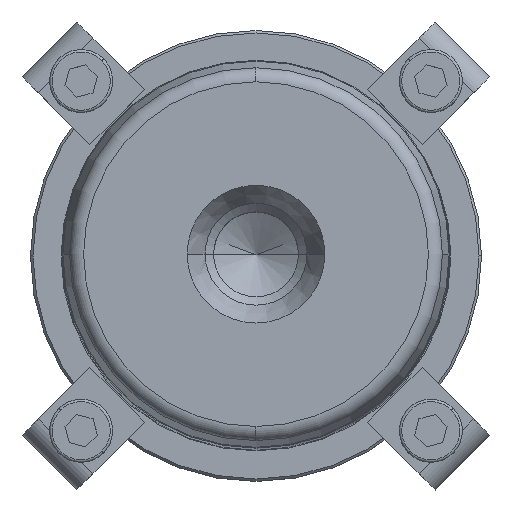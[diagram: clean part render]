
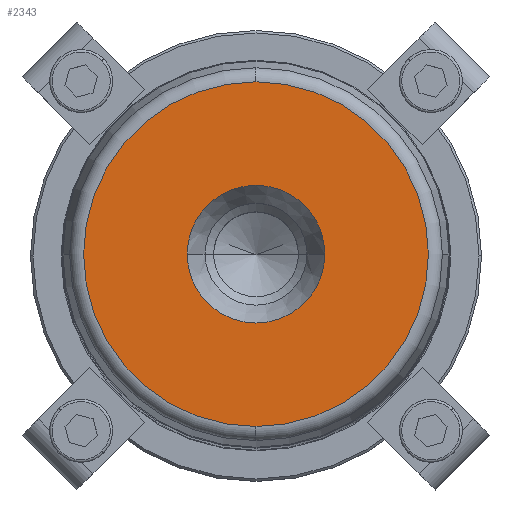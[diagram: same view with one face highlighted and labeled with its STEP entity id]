
A CAD part, top view. The second image highlights one B-rep face of the part: STEP entity #2343.
In plain terms, the highlighted planar face has unit normal (0, 0, 1).
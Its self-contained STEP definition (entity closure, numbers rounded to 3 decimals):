
#431=CARTESIAN_POINT('',(14.2,0.,220.0));
#432=VERTEX_POINT('',#431);
#439=CARTESIAN_POINT('',(-14.2,0.,220.));
#440=VERTEX_POINT('',#439);
#441=CARTESIAN_POINT('',(0.0,0.,220.));
#442=DIRECTION('',(0.0,0.0,1.0));
#443=DIRECTION('',(1.0,0.0,0.0));
#444=AXIS2_PLACEMENT_3D('',#441,#442,#443);
#445=CIRCLE('',#444,14.2);
#446=EDGE_CURVE('',#432,#440,#445,.T.);
#463=CARTESIAN_POINT('',(0.0,-35.554,220.));
#464=VERTEX_POINT('',#463);
#474=CARTESIAN_POINT('',(0.,35.554,220.));
#475=VERTEX_POINT('',#474);
#476=CARTESIAN_POINT('',(0.0,0.,220.));
#477=DIRECTION('',(0.0,0.0,1.0));
#478=DIRECTION('',(1.0,0.0,0.0));
#479=AXIS2_PLACEMENT_3D('',#476,#477,#478);
#480=CIRCLE('',#479,35.554);
#481=EDGE_CURVE('',#475,#464,#480,.T.);
#2304=CARTESIAN_POINT('',(35.554,0.,220.));
#2305=VERTEX_POINT('',#2304);
#2306=CARTESIAN_POINT('',(0.0,0.,220.));
#2307=DIRECTION('',(0.0,0.0,1.0));
#2308=DIRECTION('',(1.0,0.0,0.0));
#2309=AXIS2_PLACEMENT_3D('',#2306,#2307,#2308);
#2310=CIRCLE('',#2309,35.554);
#2311=EDGE_CURVE('',#2305,#475,#2310,.T.);
#2313=CARTESIAN_POINT('',(0.0,0.,220.));
#2314=DIRECTION('',(0.0,0.0,1.0));
#2315=DIRECTION('',(1.0,0.0,0.0));
#2316=AXIS2_PLACEMENT_3D('',#2313,#2314,#2315);
#2317=CIRCLE('',#2316,35.554);
#2318=EDGE_CURVE('',#464,#2305,#2317,.T.);
#2323=CARTESIAN_POINT('',(24.877,0.,220.0));
#2324=DIRECTION('',(0.0,0.0,1.0));
#2325=DIRECTION('',(0.0,-1.0,0.0));
#2326=AXIS2_PLACEMENT_3D('',#2323,#2324,#2325);
#2327=PLANE('',#2326);
#2328=ORIENTED_EDGE('',*,*,#2311,.T.);
#2329=ORIENTED_EDGE('',*,*,#481,.T.);
#2330=ORIENTED_EDGE('',*,*,#2318,.T.);
#2331=EDGE_LOOP('',(#2328,#2329,#2330));
#2332=FACE_OUTER_BOUND('',#2331,.T.);
#2333=ORIENTED_EDGE('',*,*,#446,.F.);
#2334=CARTESIAN_POINT('',(0.0,0.,220.));
#2335=DIRECTION('',(0.0,0.0,1.0));
#2336=DIRECTION('',(1.0,0.0,0.0));
#2337=AXIS2_PLACEMENT_3D('',#2334,#2335,#2336);
#2338=CIRCLE('',#2337,14.2);
#2339=EDGE_CURVE('',#440,#432,#2338,.T.);
#2340=ORIENTED_EDGE('',*,*,#2339,.F.);
#2341=EDGE_LOOP('',(#2333,#2340));
#2342=FACE_BOUND('',#2341,.T.);
#2343=ADVANCED_FACE('',(#2332,#2342),#2327,.T.);
